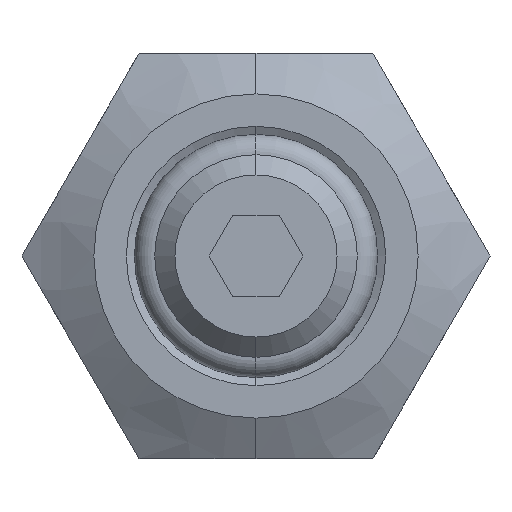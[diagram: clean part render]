
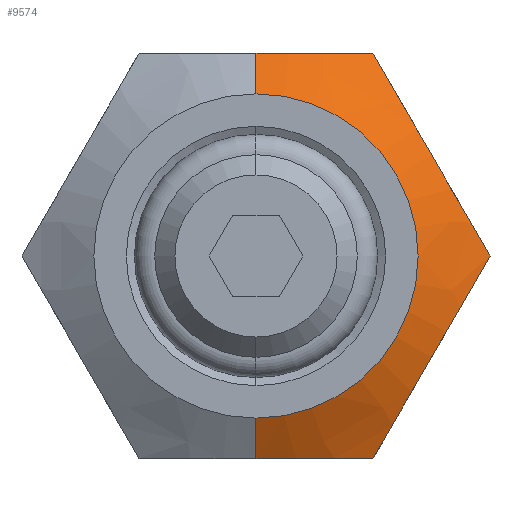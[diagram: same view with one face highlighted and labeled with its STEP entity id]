
A CAD part, front view. The second image highlights one B-rep face of the part: STEP entity #9574.
In plain terms, the highlighted conical face has half-angle 60 degrees and reference radius 4 mm.
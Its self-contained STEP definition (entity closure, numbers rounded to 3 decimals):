
#2463 = B_SPLINE_CURVE_WITH_KNOTS ( 'NONE', 3,
 ( #3470, #3469, #3471, #3472, #3473, #3474, #3475, #3476, #3477, #3478 ),
 .UNSPECIFIED., .F., .F.,
 ( 4, 2, 2, 2, 4 ),
 ( 0., 0.003, 0.004, 0.004, 0.006 ),
 .UNSPECIFIED. ) ;
#2464 = B_SPLINE_CURVE_WITH_KNOTS ( 'NONE', 3,
 ( #3468, #3452, #3480, #3481, #3482, #3483 ),
 .UNSPECIFIED., .F., .F.,
 ( 4, 2, 4 ),
 ( 0.014, 0.016, 0.017 ),
 .UNSPECIFIED. ) ;
#3242 = LINE ( 'NONE', #3479, #3244 ) ;
#3244 = VECTOR ( 'NONE', #3485, 1000. ) ;
#3452 = CARTESIAN_POINT ( 'NONE',  ( 2.42, 8.389, 5. ) ) ;
#3468 = CARTESIAN_POINT ( 'NONE',  ( 2.887, 8.524, 5. ) ) ;
#3469 = CARTESIAN_POINT ( 'NONE',  ( 5.302, 8.252, 0.816 ) ) ;
#3470 = CARTESIAN_POINT ( 'NONE',  ( 5.774, 8.524, 0. ) ) ;
#3471 = CARTESIAN_POINT ( 'NONE',  ( 4.824, 8.078, 1.645 ) ) ;
#3472 = CARTESIAN_POINT ( 'NONE',  ( 4.21, 8.077, 2.708 ) ) ;
#3473 = CARTESIAN_POINT ( 'NONE',  ( 4.087, 8.088, 2.921 ) ) ;
#3474 = CARTESIAN_POINT ( 'NONE',  ( 3.843, 8.128, 3.344 ) ) ;
#3475 = CARTESIAN_POINT ( 'NONE',  ( 3.722, 8.159, 3.554 ) ) ;
#3476 = CARTESIAN_POINT ( 'NONE',  ( 3.361, 8.275, 4.179 ) ) ;
#3477 = CARTESIAN_POINT ( 'NONE',  ( 3.123, 8.388, 4.591 ) ) ;
#3478 = CARTESIAN_POINT ( 'NONE',  ( 2.887, 8.524, 5. ) ) ;
#3479 = CARTESIAN_POINT ( 'NONE',  ( 0., 7.5, 4. ) ) ;
#3480 = CARTESIAN_POINT ( 'NONE',  ( 1.947, 8.277, 5. ) ) ;
#3481 = CARTESIAN_POINT ( 'NONE',  ( 0.983, 8.12, 5. ) ) ;
#3482 = CARTESIAN_POINT ( 'NONE',  ( 0.488, 8.077, 5. ) ) ;
#3483 = CARTESIAN_POINT ( 'NONE',  ( 0., 8.077, 5. ) ) ;
#3485 = DIRECTION ( 'NONE',  ( 0., 0.5, 0.866 ) ) ;
#9155 = CARTESIAN_POINT ( 'NONE',  ( 0., 8.077, -5. ) ) ;
#9156 = CARTESIAN_POINT ( 'NONE',  ( 0., 7.5, 4. ) ) ;
#9164 = CARTESIAN_POINT ( 'NONE',  ( 0., 7.5, -4. ) ) ;
#9171 = CARTESIAN_POINT ( 'NONE',  ( 2.887, 8.524, -5. ) ) ;
#9172 = CARTESIAN_POINT ( 'NONE',  ( 5.774, 8.524, 0. ) ) ;
#9173 = CARTESIAN_POINT ( 'NONE',  ( 2.887, 8.524, 5. ) ) ;
#9174 = CARTESIAN_POINT ( 'NONE',  ( 0., 8.077, 5. ) ) ;
#9345 = B_SPLINE_CURVE_WITH_KNOTS ( 'NONE', 3,
 ( #12288, #12286, #12284, #12289, #12290, #12291 ),
 .UNSPECIFIED., .F., .F.,
 ( 4, 2, 4 ),
 ( 0.008, 0.01, 0.011 ),
 .UNSPECIFIED. ) ;
#9347 = B_SPLINE_CURVE_WITH_KNOTS ( 'NONE', 3,
 ( #12279, #12287, #12293, #12294, #12295, #12296, #12297, #12298, #12299, #12300 ),
 .UNSPECIFIED., .F., .F.,
 ( 4, 2, 2, 2, 4 ),
 ( 0., 0.003, 0.004, 0.004, 0.006 ),
 .UNSPECIFIED. ) ;
#9557 = EDGE_CURVE ( 'NONE', #11770, #11762, #12196, .T. ) ;
#9565 = EDGE_CURVE ( 'NONE', #11770, #11761, #12208, .T. ) ;
#9566 = EDGE_CURVE ( 'NONE', #11761, #11777, #9345, .T. ) ;
#9567 = EDGE_CURVE ( 'NONE', #11777, #11778, #9347, .T. ) ;
#9574 = ADVANCED_FACE ( 'NONE', ( #12243 ), #12251, .T. ) ;
#9932 = CARTESIAN_POINT ( 'NONE',  ( 0., 7.5, 0. ) ) ;
#9933 = DIRECTION ( 'NONE',  ( 0., -1., 0. ) ) ;
#9934 = DIRECTION ( 'NONE',  ( 0., 0., -1. ) ) ;
#10027 = ORIENTED_EDGE ( 'NONE', *, *, #9557, .F. ) ;
#10028 = ORIENTED_EDGE ( 'NONE', *, *, #9565, .T. ) ;
#10029 = ORIENTED_EDGE ( 'NONE', *, *, #9566, .T. ) ;
#10030 = ORIENTED_EDGE ( 'NONE', *, *, #9567, .T. ) ;
#10031 = ORIENTED_EDGE ( 'NONE', *, *, #10375, .T. ) ;
#10032 = ORIENTED_EDGE ( 'NONE', *, *, #10376, .T. ) ;
#10033 = ORIENTED_EDGE ( 'NONE', *, *, #10377, .F. ) ;
#10375 = EDGE_CURVE ( 'NONE', #11778, #11779, #2463, .T. ) ;
#10376 = EDGE_CURVE ( 'NONE', #11779, #11780, #2464, .T. ) ;
#10377 = EDGE_CURVE ( 'NONE', #11762, #11780, #3242, .T. ) ;
#11288 = EDGE_LOOP ( 'NONE', ( #10027, #10028, #10029, #10030, #10031, #10032, #10033 ) ) ;
#11519 = AXIS2_PLACEMENT_3D ( 'NONE', #9932, #9933, #9934 ) ;
#11761 = VERTEX_POINT ( 'NONE', #9155 ) ;
#11762 = VERTEX_POINT ( 'NONE', #9156 ) ;
#11770 = VERTEX_POINT ( 'NONE', #9164 ) ;
#11777 = VERTEX_POINT ( 'NONE', #9171 ) ;
#11778 = VERTEX_POINT ( 'NONE', #9172 ) ;
#11779 = VERTEX_POINT ( 'NONE', #9173 ) ;
#11780 = VERTEX_POINT ( 'NONE', #9174 ) ;
#12196 = CIRCLE ( 'NONE', #11519, 4. ) ;
#12208 = LINE ( 'NONE', #12280, #12214 ) ;
#12214 = VECTOR ( 'NONE', #12285, 1000. ) ;
#12243 = FACE_OUTER_BOUND ( 'NONE', #11288, .T. ) ;
#12251 = CONICAL_SURFACE ( 'NONE', #12577, 4., 1.047 ) ;
#12279 = CARTESIAN_POINT ( 'NONE',  ( 2.887, 8.524, -5. ) ) ;
#12280 = CARTESIAN_POINT ( 'NONE',  ( 0., 7.5, -4. ) ) ;
#12284 = CARTESIAN_POINT ( 'NONE',  ( 0.983, 8.12, -5. ) ) ;
#12285 = DIRECTION ( 'NONE',  ( 0., 0.5, -0.866 ) ) ;
#12286 = CARTESIAN_POINT ( 'NONE',  ( 0.488, 8.077, -5. ) ) ;
#12287 = CARTESIAN_POINT ( 'NONE',  ( 3.358, 8.252, -4.184 ) ) ;
#12288 = CARTESIAN_POINT ( 'NONE',  ( 0., 8.077, -5. ) ) ;
#12289 = CARTESIAN_POINT ( 'NONE',  ( 1.947, 8.277, -5. ) ) ;
#12290 = CARTESIAN_POINT ( 'NONE',  ( 2.42, 8.389, -5. ) ) ;
#12291 = CARTESIAN_POINT ( 'NONE',  ( 2.887, 8.524, -5. ) ) ;
#12293 = CARTESIAN_POINT ( 'NONE',  ( 3.837, 8.078, -3.355 ) ) ;
#12294 = CARTESIAN_POINT ( 'NONE',  ( 4.45, 8.077, -2.292 ) ) ;
#12295 = CARTESIAN_POINT ( 'NONE',  ( 4.573, 8.088, -2.079 ) ) ;
#12296 = CARTESIAN_POINT ( 'NONE',  ( 4.817, 8.128, -1.656 ) ) ;
#12297 = CARTESIAN_POINT ( 'NONE',  ( 4.938, 8.159, -1.446 ) ) ;
#12298 = CARTESIAN_POINT ( 'NONE',  ( 5.3, 8.275, -0.821 ) ) ;
#12299 = CARTESIAN_POINT ( 'NONE',  ( 5.538, 8.388, -0.409 ) ) ;
#12300 = CARTESIAN_POINT ( 'NONE',  ( 5.774, 8.524, 0. ) ) ;
#12361 = CARTESIAN_POINT ( 'NONE',  ( 0., 7.5, 0. ) ) ;
#12362 = DIRECTION ( 'NONE',  ( 0., 1., 0. ) ) ;
#12370 = DIRECTION ( 'NONE',  ( 0., 0., 1. ) ) ;
#12577 = AXIS2_PLACEMENT_3D ( 'NONE', #12361, #12362, #12370 ) ;
